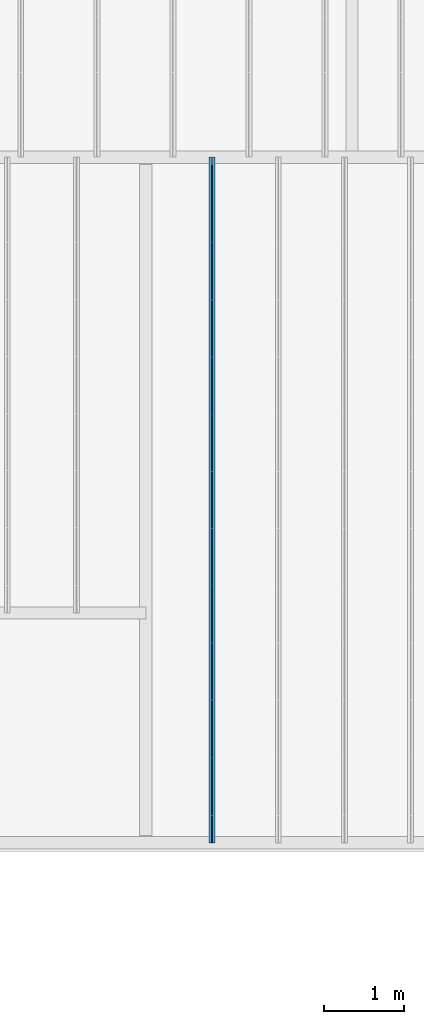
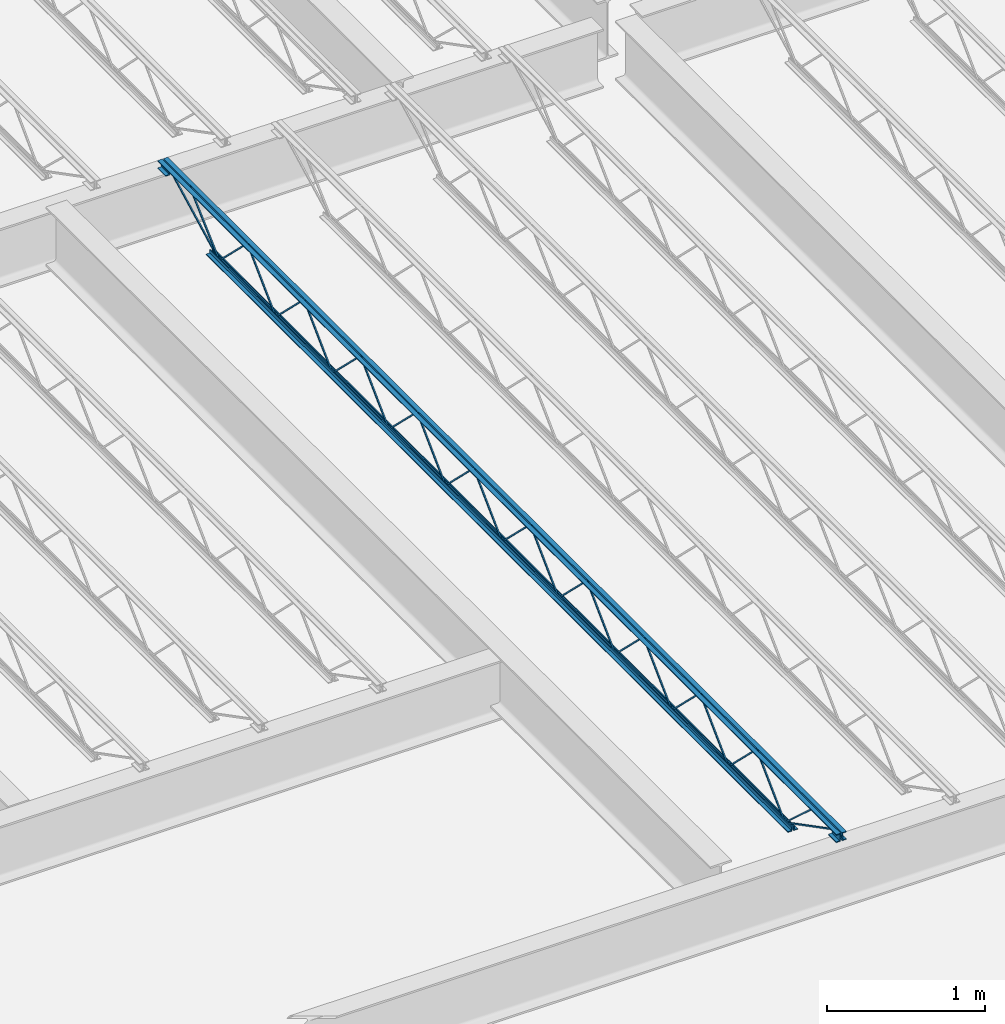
# One storey, part 29 of 75: 1 beam.
"""IFC2X3 building model written with IfcOpenShell, lengths in metres."""

from ifc_helpers import new_model, entity, si_unit, converted_unit, frame, origin, place, context, project, spatial, face_set, surface_model, element, save


model = new_model("IFC2X3")

# Units and contexts
model_context = context("Model", 3, precision=1e-09, world=origin())
plan_context = context("Plan", 3, precision=1e-09, world=origin())
ifc_project = project(units=[si_unit("LENGTHUNIT", "METRE"), si_unit("AREAUNIT", "SQUARE_METRE"), si_unit("VOLUMEUNIT", "CUBIC_METRE"), converted_unit("PLANEANGLEUNIT", "DEGREE", entity("IfcRatioMeasure", 0.01745329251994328), si_unit("PLANEANGLEUNIT", "RADIAN"), dimensions=[0, 0, 0, 0, 0, 0, 0]), si_unit("TIMEUNIT", "SECOND")], contexts=[model_context, plan_context])

# Site, building, storey
site_placement = place(None, origin())
site = spatial("IfcSite", under=ifc_project, at=site_placement, Name="Default", CompositionType="ELEMENT")
building_placement = place(site_placement, origin())
building = spatial("IfcBuilding", under=site, at=building_placement, CompositionType="ELEMENT")
storey_placement = place(building_placement, origin())
storey = spatial("IfcBuildingStorey", under=building, at=storey_placement, Name="First Floor", CompositionType="ELEMENT", Elevation=-3.531500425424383e-13)

# Beam
beam_placement = place(storey_placement, frame((-10.62719704, 10.03999999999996, 4.112000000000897)))
element("IfcBeam", 1, at=beam_placement, inside=storey, Name="M_K-Series Bar Joist-Rod Web:14K1:14K1", ObjectType="M_K-Series Bar Joist-Rod Web:14K1", context=model_context, shape_type="SurfaceModel", body=[
    surface_model("IfcFaceBasedSurfaceModel", [(0.04149999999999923, 6.428799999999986, 0.01110000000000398), (0.03200000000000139, 6.428799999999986, 0.01110000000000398), (0.03200000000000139, 6.428799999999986, 0.001600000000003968), (0.04149999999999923, 6.428799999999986, 0.001600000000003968), (0.03199999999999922, 6.430038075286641, 0.01110000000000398), (0.04149999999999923, 6.430038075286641, 0.01110000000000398), (0.03200000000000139, 6.433911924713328, 0.001600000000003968), (0.03200000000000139, 6.784861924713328, 0.3449000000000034), (0.03200000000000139, 6.78733807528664, 0.3449000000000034), (0.03200000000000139, 7.138288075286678, 0.001600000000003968), (0.03200000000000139, 7.143399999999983, 0.001600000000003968), (0.03200000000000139, 7.143399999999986, 0.01110000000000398), (0.03200000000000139, 7.142161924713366, 0.01110000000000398), (0.03200000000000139, 6.79121192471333, 0.3544000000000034), (0.03200000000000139, 6.780988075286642, 0.3544000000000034), (0.0415000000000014, 6.433911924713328, 0.001600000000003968), (0.04149999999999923, 6.784861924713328, 0.3449000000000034), (0.04149999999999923, 6.787338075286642, 0.3449000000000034), (0.04149999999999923, 7.138288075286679, 0.001600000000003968), (0.04149999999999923, 7.143399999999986, 0.001600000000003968), (0.04149999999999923, 7.143399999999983, 0.01110000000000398), (0.04149999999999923, 7.142161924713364, 0.01110000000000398), (0.04149999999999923, 6.791211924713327, 0.3544000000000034), (0.04149999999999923, 6.780988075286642, 0.3544000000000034), (0.04149999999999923, 5.714199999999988, 0.01110000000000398), (0.03200000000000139, 5.714199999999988, 0.01110000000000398), (0.03200000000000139, 5.714199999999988, 0.001600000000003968), (0.04149999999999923, 5.714199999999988, 0.001600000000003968), (0.03199999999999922, 5.715438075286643, 0.01110000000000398), (0.04149999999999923, 5.715438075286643, 0.01110000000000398), (0.03200000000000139, 5.71931192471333, 0.001600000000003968), (0.03200000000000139, 6.07026192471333, 0.3449000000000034), (0.03200000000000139, 6.072738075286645, 0.3449000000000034), (0.03200000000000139, 6.423688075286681, 0.001600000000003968), (0.03200000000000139, 6.428799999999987, 0.001600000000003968), (0.03200000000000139, 6.428799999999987, 0.01110000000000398), (0.03200000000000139, 6.427561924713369, 0.01110000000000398), (0.03200000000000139, 6.076611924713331, 0.3544000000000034), (0.03200000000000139, 6.066388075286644, 0.3544000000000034), (0.0415000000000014, 5.71931192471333, 0.001600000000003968), (0.04149999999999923, 6.07026192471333, 0.3449000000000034), (0.04149999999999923, 6.072738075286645, 0.3449000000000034), (0.04149999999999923, 6.423688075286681, 0.001600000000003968), (0.04149999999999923, 6.428799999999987, 0.001600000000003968), (0.04149999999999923, 6.428799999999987, 0.01110000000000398), (0.04149999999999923, 6.427561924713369, 0.01110000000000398), (0.04149999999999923, 6.076611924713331, 0.3544000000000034), (0.04149999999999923, 6.066388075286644, 0.3544000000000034), (0.04149999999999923, 4.999599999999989, 0.01110000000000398), (0.03200000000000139, 4.999599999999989, 0.01110000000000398), (0.03200000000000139, 4.999599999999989, 0.001600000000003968), (0.04149999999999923, 4.999599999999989, 0.001600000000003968), (0.03199999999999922, 5.000838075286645, 0.01110000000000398), (0.04149999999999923, 5.000838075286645, 0.01110000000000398), (0.03200000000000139, 5.004711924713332, 0.001600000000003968), (0.03200000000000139, 5.355661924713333, 0.3449000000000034), (0.03200000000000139, 5.358138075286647, 0.3449000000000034), (0.03200000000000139, 5.709088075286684, 0.001600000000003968), (0.03200000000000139, 5.714199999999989, 0.001600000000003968), (0.03200000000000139, 5.714199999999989, 0.01110000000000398), (0.03200000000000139, 5.712961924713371, 0.01110000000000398), (0.03200000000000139, 5.362011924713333, 0.3544000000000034), (0.03200000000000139, 5.351788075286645, 0.3544000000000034), (0.0415000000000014, 5.004711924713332, 0.001600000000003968), (0.04149999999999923, 5.355661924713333, 0.3449000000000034), (0.04149999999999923, 5.358138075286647, 0.3449000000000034), (0.04149999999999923, 5.709088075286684, 0.001600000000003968), (0.04149999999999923, 5.714199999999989, 0.001600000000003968), (0.04149999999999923, 5.714199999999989, 0.01110000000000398), (0.04149999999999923, 5.712961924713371, 0.01110000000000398), (0.04149999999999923, 5.362011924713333, 0.3544000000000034), (0.04149999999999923, 5.351788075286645, 0.3544000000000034), (0.04149999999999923, 4.284999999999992, 0.01110000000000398), (0.03200000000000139, 4.284999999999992, 0.01110000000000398), (0.03200000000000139, 4.284999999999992, 0.001600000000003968), (0.04149999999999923, 4.284999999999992, 0.001600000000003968), (0.03199999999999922, 4.286238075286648, 0.01110000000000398), (0.04149999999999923, 4.286238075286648, 0.01110000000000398), (0.03200000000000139, 4.290111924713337, 0.001600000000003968), (0.03200000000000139, 4.641061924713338, 0.3449000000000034), (0.03200000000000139, 4.643538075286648, 0.3449000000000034), (0.03200000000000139, 4.994488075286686, 0.001600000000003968), (0.03200000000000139, 4.999599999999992, 0.001600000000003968), (0.03200000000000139, 4.999599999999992, 0.01110000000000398), (0.03200000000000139, 4.998361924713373, 0.01110000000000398), (0.03200000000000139, 4.647411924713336, 0.3544000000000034), (0.03200000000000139, 4.637188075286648, 0.3544000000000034), (0.0415000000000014, 4.290111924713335, 0.001600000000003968), (0.04149999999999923, 4.641061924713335, 0.3449000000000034), (0.04149999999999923, 4.643538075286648, 0.3449000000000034), (0.04149999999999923, 4.994488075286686, 0.001600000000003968), (0.04149999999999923, 4.999599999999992, 0.001600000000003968), (0.04149999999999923, 4.999599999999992, 0.01110000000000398), (0.04149999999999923, 4.998361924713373, 0.01110000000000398), (0.04149999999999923, 4.647411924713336, 0.3544000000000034), (0.04149999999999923, 4.637188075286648, 0.3544000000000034), (0.04149999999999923, 3.570399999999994, 0.01110000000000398), (0.03200000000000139, 3.570399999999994, 0.01110000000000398), (0.03200000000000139, 3.570399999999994, 0.001600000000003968), (0.04149999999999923, 3.570399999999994, 0.001600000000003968), (0.03199999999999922, 3.57163807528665, 0.01110000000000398), (0.04149999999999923, 3.57163807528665, 0.01110000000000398), (0.03200000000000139, 3.575511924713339, 0.001600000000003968), (0.03200000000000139, 3.926461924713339, 0.3449000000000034), (0.03200000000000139, 3.928938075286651, 0.3449000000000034), (0.03200000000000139, 4.279888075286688, 0.001600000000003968), (0.03200000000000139, 4.284999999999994, 0.001600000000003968), (0.03200000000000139, 4.284999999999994, 0.01110000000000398), (0.03200000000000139, 4.283761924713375, 0.01110000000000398), (0.03200000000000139, 3.932811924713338, 0.3544000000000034), (0.03200000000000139, 3.92258807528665, 0.3544000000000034), (0.0415000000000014, 3.575511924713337, 0.001600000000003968), (0.04149999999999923, 3.926461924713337, 0.3449000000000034), (0.04149999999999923, 3.928938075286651, 0.3449000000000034), (0.04149999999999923, 4.279888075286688, 0.001600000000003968), (0.04149999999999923, 4.284999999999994, 0.001600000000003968), (0.04149999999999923, 4.284999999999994, 0.01110000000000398), (0.04149999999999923, 4.283761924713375, 0.01110000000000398), (0.04149999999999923, 3.93281192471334, 0.3544000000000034), (0.04149999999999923, 3.922588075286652, 0.3544000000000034), (0.04149999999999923, 2.855799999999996, 0.01110000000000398), (0.03200000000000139, 2.855799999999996, 0.01110000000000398), (0.03200000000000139, 2.855799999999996, 0.001600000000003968), (0.04149999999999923, 2.855799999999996, 0.001600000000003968), (0.03199999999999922, 2.857038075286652, 0.01110000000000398), (0.04149999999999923, 2.857038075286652, 0.01110000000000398), (0.03200000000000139, 2.860911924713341, 0.001600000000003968), (0.03200000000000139, 3.211861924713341, 0.3449000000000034), (0.03200000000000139, 3.214338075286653, 0.3449000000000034), (0.03200000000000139, 3.56528807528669, 0.001600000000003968), (0.03200000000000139, 3.570399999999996, 0.001600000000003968), (0.03200000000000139, 3.570399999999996, 0.01110000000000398), (0.03200000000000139, 3.569161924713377, 0.01110000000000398), (0.03200000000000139, 3.21821192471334, 0.3544000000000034), (0.03200000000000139, 3.207988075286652, 0.3544000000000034), (0.0415000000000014, 2.860911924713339, 0.001600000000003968), (0.04149999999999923, 3.21186192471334, 0.3449000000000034), (0.04149999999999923, 3.214338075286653, 0.3449000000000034), (0.04149999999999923, 3.56528807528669, 0.001600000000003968), (0.04149999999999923, 3.570399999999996, 0.001600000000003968), (0.04149999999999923, 3.570399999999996, 0.01110000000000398), (0.04149999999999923, 3.569161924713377, 0.01110000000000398), (0.04149999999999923, 3.218211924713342, 0.3544000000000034), (0.04149999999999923, 3.207988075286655, 0.3544000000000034), (0.04149999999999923, 2.1412, 0.01110000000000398), (0.03200000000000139, 2.1412, 0.01110000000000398), (0.03200000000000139, 2.1412, 0.001600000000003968), (0.04149999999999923, 2.1412, 0.001600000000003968), (0.03199999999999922, 2.142438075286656, 0.01110000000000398), (0.04149999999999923, 2.142438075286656, 0.01110000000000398), (0.03200000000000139, 2.146311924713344, 0.001600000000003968), (0.03200000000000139, 2.497261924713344, 0.3449000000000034), (0.03200000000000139, 2.499738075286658, 0.3449000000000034), (0.03200000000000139, 2.850688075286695, 0.001600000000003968), (0.03200000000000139, 2.8558, 0.001600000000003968), (0.03200000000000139, 2.8558, 0.01110000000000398), (0.03200000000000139, 2.854561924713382, 0.01110000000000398), (0.03200000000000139, 2.503611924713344, 0.3544000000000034), (0.03200000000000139, 2.493388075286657, 0.3544000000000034), (0.0415000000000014, 2.146311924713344, 0.001600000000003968), (0.04149999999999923, 2.497261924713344, 0.3449000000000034), (0.04149999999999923, 2.499738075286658, 0.3449000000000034), (0.04149999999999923, 2.850688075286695, 0.001600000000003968), (0.04149999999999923, 2.8558, 0.001600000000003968), (0.04149999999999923, 2.8558, 0.01110000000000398), (0.04149999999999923, 2.854561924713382, 0.01110000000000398), (0.04149999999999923, 2.503611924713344, 0.3544000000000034), (0.04149999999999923, 2.493388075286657, 0.3544000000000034), (0.04149999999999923, 1.426600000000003, 0.01110000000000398), (0.03200000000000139, 1.426600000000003, 0.01110000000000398), (0.03200000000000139, 1.426600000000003, 0.001600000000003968), (0.04149999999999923, 1.426600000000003, 0.001600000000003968), (0.03199999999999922, 1.427838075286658, 0.01110000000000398), (0.04149999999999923, 1.427838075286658, 0.01110000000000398), (0.03200000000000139, 1.431711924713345, 0.001600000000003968), (0.03200000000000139, 1.782661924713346, 0.3449000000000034), (0.03200000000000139, 1.78513807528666, 0.3449000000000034), (0.03200000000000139, 2.136088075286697, 0.001600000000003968), (0.03200000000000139, 2.141200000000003, 0.001600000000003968), (0.03200000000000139, 2.141200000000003, 0.01110000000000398), (0.03200000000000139, 2.139961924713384, 0.01110000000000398), (0.03200000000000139, 1.789011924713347, 0.3544000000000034), (0.03200000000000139, 1.778788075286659, 0.3544000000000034), (0.0415000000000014, 1.431711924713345, 0.001600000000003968), (0.04149999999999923, 1.782661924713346, 0.3449000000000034), (0.04149999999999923, 1.78513807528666, 0.3449000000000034), (0.04149999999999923, 2.136088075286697, 0.001600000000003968), (0.04149999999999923, 2.141200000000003, 0.001600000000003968), (0.04149999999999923, 2.141200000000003, 0.01110000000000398), (0.04149999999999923, 2.139961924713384, 0.01110000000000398), (0.04149999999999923, 1.789011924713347, 0.3544000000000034), (0.04149999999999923, 1.778788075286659, 0.3544000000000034), (0.0415000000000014, 7.143399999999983, 0.01109999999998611), (0.03200000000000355, 7.143399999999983, 0.01109999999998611), (0.03200000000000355, 7.143399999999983, 0.0015999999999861), (0.0415000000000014, 7.143399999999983, 0.0015999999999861), (0.03200000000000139, 7.144638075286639, 0.01109999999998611), (0.0415000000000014, 7.144638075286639, 0.01109999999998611), (0.03200000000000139, 7.148511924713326, 0.0015999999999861), (0.03200000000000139, 7.499461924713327, 0.3448999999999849), (0.03200000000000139, 7.501938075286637, 0.3448999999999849), (0.03200000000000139, 7.852888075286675, 0.0015999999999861), (0.03200000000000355, 7.857999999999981, 0.0015999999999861), (0.03200000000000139, 7.857999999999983, 0.01109999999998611), (0.03200000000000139, 7.856761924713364, 0.01109999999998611), (0.03200000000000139, 7.505811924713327, 0.354399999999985), (0.03200000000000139, 7.495588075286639, 0.354399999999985), (0.0415000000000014, 7.148511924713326, 0.0015999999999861), (0.0415000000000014, 7.499461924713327, 0.3448999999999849), (0.0415000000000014, 7.50193807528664, 0.3448999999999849), (0.0415000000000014, 7.852888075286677, 0.0015999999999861), (0.0415000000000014, 7.857999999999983, 0.0015999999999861), (0.0415000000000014, 7.857999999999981, 0.01109999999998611), (0.0415000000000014, 7.856761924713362, 0.01109999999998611), (0.0415000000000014, 7.505811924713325, 0.354399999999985), (0.0415000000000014, 7.495588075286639, 0.354399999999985), (0.04149999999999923, 0.712000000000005, 0.01110000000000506), (0.03200000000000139, 0.712000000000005, 0.01110000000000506), (0.03200000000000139, 0.712000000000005, 0.001600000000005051), (0.04149999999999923, 0.712000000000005, 0.001600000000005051), (0.03199999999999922, 0.7132380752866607, 0.01110000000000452), (0.04149999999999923, 0.7132380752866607, 0.01110000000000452), (0.03200000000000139, 0.7171119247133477, 0.001600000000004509), (0.03200000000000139, 1.068061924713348, 0.3449000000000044), (0.03200000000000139, 1.070538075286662, 0.3449000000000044), (0.03200000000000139, 1.421488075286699, 0.001600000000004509), (0.03200000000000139, 1.426600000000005, 0.001600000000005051), (0.03200000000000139, 1.426600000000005, 0.01110000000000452), (0.03200000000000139, 1.425361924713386, 0.01110000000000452), (0.03200000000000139, 1.074411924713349, 0.3544000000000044), (0.03200000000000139, 1.064188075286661, 0.3544000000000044), (0.0415000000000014, 0.7171119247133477, 0.001600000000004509), (0.04149999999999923, 1.068061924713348, 0.3449000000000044), (0.04149999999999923, 1.070538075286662, 0.3449000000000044), (0.04149999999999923, 1.421488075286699, 0.001600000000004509), (0.04149999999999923, 1.426600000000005, 0.001600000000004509), (0.04149999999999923, 1.426600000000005, 0.01110000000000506), (0.04149999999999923, 1.425361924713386, 0.01110000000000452), (0.04149999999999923, 1.074411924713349, 0.3544000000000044), (0.04149999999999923, 1.064188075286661, 0.3544000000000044), (0.03199999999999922, 8.57, 0.3559999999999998), (0.0, 8.57, 0.3559999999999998), (0.0, 8.57, 0.349499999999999), (0.02549999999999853, 8.57, 0.349499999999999), (0.02549999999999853, 8.57, 0.3239999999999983), (0.03199999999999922, 8.57, 0.3239999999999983), (0.04149999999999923, 8.57, 0.3559999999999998), (0.04149999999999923, 8.57, 0.3239999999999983), (0.04799999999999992, 8.57, 0.3239999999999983), (0.04799999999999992, 8.57, 0.349499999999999), (0.07349999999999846, 8.57, 0.349499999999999), (0.07349999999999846, 8.57, 0.3559999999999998), (0.03199999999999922, 0.0, 0.3559999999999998), (0.0, 0.0, 0.3559999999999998), (0.0, 0.0, 0.349499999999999), (0.02549999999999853, 0.0, 0.349499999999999), (0.02549999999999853, 0.0, 0.3239999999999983), (0.03199999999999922, 0.0, 0.3239999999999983), (0.04149999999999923, 0.0, 0.3559999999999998), (0.04149999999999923, 0.0, 0.3239999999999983), (0.04799999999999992, 0.0, 0.3239999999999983), (0.04799999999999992, 0.0, 0.349499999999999), (0.07349999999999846, 0.0, 0.349499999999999), (0.07349999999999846, 0.0, 0.3559999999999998), (0.04149999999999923, 0.09999999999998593, 0.2924999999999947), (0.07349999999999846, 0.09999999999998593, 0.2924999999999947), (0.07349999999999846, 0.09999999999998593, 0.2989999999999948), (0.04799999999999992, 0.09999999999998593, 0.2989999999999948), (0.04799999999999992, 0.09999999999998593, 0.3239999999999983), (0.04149999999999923, 0.09999999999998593, 0.3239999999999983), (0.0, 0.09999999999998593, 0.2924999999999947), (0.03199999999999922, 0.09999999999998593, 0.2924999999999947), (0.03199999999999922, 0.09999999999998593, 0.3239999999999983), (0.02549999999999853, 0.09999999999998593, 0.3239999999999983), (0.02549999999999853, 0.09999999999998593, 0.2989999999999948), (0.0, 0.09999999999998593, 0.2989999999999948), (0.04149999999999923, 0.0, 0.2924999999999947), (0.07349999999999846, 0.0, 0.2924999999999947), (0.07349999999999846, 0.0, 0.2989999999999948), (0.04799999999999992, 0.0, 0.2989999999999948), (0.0, 0.0, 0.2924999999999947), (0.03199999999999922, 0.0, 0.2924999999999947), (0.02549999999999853, 0.0, 0.2989999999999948), (0.0, 0.0, 0.2989999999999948), (0.03199999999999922, 8.57, 0.2924999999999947), (0.0255000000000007, 8.57, 0.3239999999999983), (0.0255000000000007, 8.57, 0.2989999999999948), (0.0, 8.57, 0.2989999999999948), (0.0, 8.57, 0.2924999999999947), (0.04149999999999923, 8.57, 0.2924999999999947), (0.07350000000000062, 8.57, 0.2924999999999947), (0.07350000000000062, 8.57, 0.2989999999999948), (0.04799999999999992, 8.57, 0.2989999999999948), (0.03199999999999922, 8.47, 0.2924999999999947), (0.03199999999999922, 8.47, 0.3239999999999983), (0.0255000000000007, 8.47, 0.3239999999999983), (0.0255000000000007, 8.47, 0.2989999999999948), (0.0, 8.47, 0.2989999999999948), (0.0, 8.47, 0.2924999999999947), (0.04149999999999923, 8.47, 0.2924999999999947), (0.07350000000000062, 8.47, 0.2924999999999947), (0.07350000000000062, 8.47, 0.2989999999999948), (0.04799999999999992, 8.47, 0.2989999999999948), (0.04799999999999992, 8.47, 0.3239999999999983), (0.04149999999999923, 8.47, 0.3239999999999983), (0.03199999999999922, 7.958000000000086, 0.0), (0.03199999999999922, 7.958000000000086, 0.03199999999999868), (0.02549999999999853, 7.958000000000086, 0.03199999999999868), (0.02549999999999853, 7.958000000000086, 0.006499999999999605), (0.0, 7.958000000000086, 0.006499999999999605), (0.0, 7.958000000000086, 0.0), (0.04149999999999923, 7.958000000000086, 0.0), (0.07349999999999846, 7.958000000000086, 0.0), (0.07349999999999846, 7.958000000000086, 0.006499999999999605), (0.04799999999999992, 7.958000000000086, 0.006499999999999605), (0.04799999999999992, 7.958000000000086, 0.03199999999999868), (0.04149999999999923, 7.958000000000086, 0.03199999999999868), (0.03199999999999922, 0.6120000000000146, 0.0), (0.03199999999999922, 0.6120000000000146, 0.03199999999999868), (0.02549999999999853, 0.6120000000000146, 0.03199999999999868), (0.02549999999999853, 0.6120000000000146, 0.006499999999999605), (0.0, 0.6120000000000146, 0.006499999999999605), (0.0, 0.6120000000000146, 0.0), (0.04149999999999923, 0.6120000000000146, 0.0), (0.07349999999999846, 0.6120000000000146, 0.0), (0.07349999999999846, 0.6120000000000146, 0.006499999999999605), (0.04799999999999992, 0.6120000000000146, 0.006499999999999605), (0.04799999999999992, 0.6120000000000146, 0.03199999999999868), (0.04149999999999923, 0.6120000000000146, 0.03199999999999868), (0.0415000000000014, 0.7141882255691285, 0.01056594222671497), (0.03200000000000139, 0.7141882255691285, 0.01056594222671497), (0.03200000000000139, 0.7098117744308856, 0.002134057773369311), (0.0415000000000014, 0.7098117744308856, 0.002134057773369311), (0.0415000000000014, 0.1011592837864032, 0.3287499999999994), (0.0415000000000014, 0.0, 0.3287499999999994), (0.0415000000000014, 0.0, 0.3192499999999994), (0.0415000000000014, 0.09884071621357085, 0.3192499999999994), (0.03200000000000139, 0.09884071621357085, 0.3192499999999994), (0.03200000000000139, 0.1011592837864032, 0.3287499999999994), (0.03200000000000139, 0.0, 0.3287499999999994), (0.03200000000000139, 0.0, 0.3192499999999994), (0.04149999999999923, 0.3347428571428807, 0.341700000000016), (0.03200000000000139, 0.3347428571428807, 0.341700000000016), (0.03200000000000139, 0.3347428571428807, 0.332200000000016), (0.04149999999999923, 0.3347428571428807, 0.332200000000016), (0.03199999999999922, 0.349275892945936, 0.341700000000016), (0.04149999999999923, 0.349275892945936, 0.341700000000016), (0.03200000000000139, 0.3456098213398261, 0.332200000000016), (0.03200000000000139, 0.7088091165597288, 0.002831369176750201), (0.03200000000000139, 0.7151908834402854, 0.009868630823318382), (0.0415000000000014, 0.3456098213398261, 0.332200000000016), (0.04149999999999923, 0.7088091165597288, 0.002831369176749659), (0.04149999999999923, 0.7151908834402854, 0.009868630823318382), (0.04149999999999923, 8.472188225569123, 0.3197840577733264), (0.04149999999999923, 8.467811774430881, 0.3282159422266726), (0.03200000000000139, 8.467811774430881, 0.3282159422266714), (0.03200000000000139, 8.472188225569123, 0.3197840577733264), (0.04149999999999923, 7.860188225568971, 0.002134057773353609), (0.04149999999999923, 7.855811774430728, 0.01056594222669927), (0.03200000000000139, 7.855811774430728, 0.01056594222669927), (0.03200000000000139, 7.860188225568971, 0.002134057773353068), (0.04149999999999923, 8.233036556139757, 0.3461600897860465), (0.04149999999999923, 8.22659201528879, 0.3531399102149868), (0.03200000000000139, 8.22659201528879, 0.3531399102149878), (0.03200000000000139, 8.233036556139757, 0.3461600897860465), (0.04149999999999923, 7.861222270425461, 0.002860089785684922), (0.04149999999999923, 7.854777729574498, 0.009839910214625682), (0.03200000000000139, 7.854777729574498, 0.009839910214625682), (0.03200000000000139, 7.861222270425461, 0.002860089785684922)], [face_set([[[0, 1, 2, 3]], [[1, 4, 5, 0]], [[2, 6, 7, 8, 9, 10, 11, 12, 13, 14, 4, 1]], [[3, 2, 6, 15]], [[0, 3, 15, 16, 17, 18, 19, 20, 21, 22, 23, 5]], [[4, 5, 23, 14]], [[15, 16, 7, 6]], [[14, 13, 22, 23]], [[16, 7, 8, 17]], [[13, 12, 21, 22]], [[17, 8, 9, 18]], [[20, 11, 10, 19]], [[12, 11, 20, 21]], [[18, 9, 10, 19]]]), face_set([[[24, 25, 26, 27]], [[25, 28, 29, 24]], [[26, 30, 31, 32, 33, 34, 35, 36, 37, 38, 28, 25]], [[27, 26, 30, 39]], [[24, 27, 39, 40, 41, 42, 43, 44, 45, 46, 47, 29]], [[28, 29, 47, 38]], [[39, 40, 31, 30]], [[38, 37, 46, 47]], [[40, 31, 32, 41]], [[37, 36, 45, 46]], [[41, 32, 33, 42]], [[44, 35, 34, 43]], [[36, 35, 44, 45]], [[42, 33, 34, 43]]]), face_set([[[48, 49, 50, 51]], [[49, 52, 53, 48]], [[50, 54, 55, 56, 57, 58, 59, 60, 61, 62, 52, 49]], [[51, 50, 54, 63]], [[48, 51, 63, 64, 65, 66, 67, 68, 69, 70, 71, 53]], [[52, 53, 71, 62]], [[63, 64, 55, 54]], [[62, 61, 70, 71]], [[64, 55, 56, 65]], [[61, 60, 69, 70]], [[65, 56, 57, 66]], [[68, 59, 58, 67]], [[60, 59, 68, 69]], [[66, 57, 58, 67]]]), face_set([[[72, 73, 74, 75]], [[73, 76, 77, 72]], [[74, 78, 79, 80, 81, 82, 83, 84, 85, 86, 76, 73]], [[75, 74, 78, 87]], [[72, 75, 87, 88, 89, 90, 91, 92, 93, 94, 95, 77]], [[76, 77, 95, 86]], [[87, 88, 79, 78]], [[86, 85, 94, 95]], [[88, 79, 80, 89]], [[85, 84, 93, 94]], [[89, 80, 81, 90]], [[92, 83, 82, 91]], [[84, 83, 92, 93]], [[90, 81, 82, 91]]]), face_set([[[96, 97, 98, 99]], [[97, 100, 101, 96]], [[98, 102, 103, 104, 105, 106, 107, 108, 109, 110, 100, 97]], [[99, 98, 102, 111]], [[96, 99, 111, 112, 113, 114, 115, 116, 117, 118, 119, 101]], [[100, 101, 119, 110]], [[111, 112, 103, 102]], [[110, 109, 118, 119]], [[112, 103, 104, 113]], [[109, 108, 117, 118]], [[113, 104, 105, 114]], [[116, 107, 106, 115]], [[108, 107, 116, 117]], [[114, 105, 106, 115]]]), face_set([[[120, 121, 122, 123]], [[121, 124, 125, 120]], [[122, 126, 127, 128, 129, 130, 131, 132, 133, 134, 124, 121]], [[123, 122, 126, 135]], [[120, 123, 135, 136, 137, 138, 139, 140, 141, 142, 143, 125]], [[124, 125, 143, 134]], [[135, 136, 127, 126]], [[134, 133, 142, 143]], [[136, 127, 128, 137]], [[133, 132, 141, 142]], [[137, 128, 129, 138]], [[140, 131, 130, 139]], [[132, 131, 140, 141]], [[138, 129, 130, 139]]]), face_set([[[144, 145, 146, 147]], [[145, 148, 149, 144]], [[146, 150, 151, 152, 153, 154, 155, 156, 157, 158, 148, 145]], [[147, 146, 150, 159]], [[144, 147, 159, 160, 161, 162, 163, 164, 165, 166, 167, 149]], [[148, 149, 167, 158]], [[159, 160, 151, 150]], [[158, 157, 166, 167]], [[160, 151, 152, 161]], [[157, 156, 165, 166]], [[161, 152, 153, 162]], [[164, 155, 154, 163]], [[156, 155, 164, 165]], [[162, 153, 154, 163]]]), face_set([[[168, 169, 170, 171]], [[169, 172, 173, 168]], [[170, 174, 175, 176, 177, 178, 179, 180, 181, 182, 172, 169]], [[171, 170, 174, 183]], [[168, 171, 183, 184, 185, 186, 187, 188, 189, 190, 191, 173]], [[172, 173, 191, 182]], [[183, 184, 175, 174]], [[182, 181, 190, 191]], [[184, 175, 176, 185]], [[181, 180, 189, 190]], [[185, 176, 177, 186]], [[188, 179, 178, 187]], [[180, 179, 188, 189]], [[186, 177, 178, 187]]]), face_set([[[192, 193, 194, 195]], [[193, 196, 197, 192]], [[194, 198, 199, 200, 201, 202, 203, 204, 205, 206, 196, 193]], [[195, 194, 198, 207]], [[192, 195, 207, 208, 209, 210, 211, 212, 213, 214, 215, 197]], [[196, 197, 215, 206]], [[207, 208, 199, 198]], [[206, 205, 214, 215]], [[208, 199, 200, 209]], [[205, 204, 213, 214]], [[209, 200, 201, 210]], [[212, 203, 202, 211]], [[204, 203, 212, 213]], [[210, 201, 202, 211]]]), face_set([[[216, 217, 218, 219]], [[217, 220, 221, 216]], [[218, 222, 223, 224, 225, 226, 227, 228, 229, 230, 220, 217]], [[219, 218, 222, 231]], [[216, 219, 231, 232, 233, 234, 235, 236, 237, 238, 239, 221]], [[220, 221, 239, 230]], [[231, 232, 223, 222]], [[230, 229, 238, 239]], [[232, 223, 224, 233]], [[229, 228, 237, 238]], [[233, 224, 225, 234]], [[236, 227, 226, 235]], [[228, 227, 236, 237]], [[234, 225, 226, 235]]]), face_set([[[240, 241, 242, 243, 244, 245]], [[246, 247, 248, 249, 250, 251]], [[252, 253, 254, 255, 256, 257]], [[258, 259, 260, 261, 262, 263]], [[245, 240, 252, 257]], [[244, 245, 257, 256]], [[243, 255, 256, 244]], [[242, 243, 255, 254]], [[241, 253, 254, 242]], [[240, 252, 253, 241]], [[251, 263, 258, 246]], [[250, 251, 263, 262]], [[249, 250, 262, 261]], [[248, 249, 261, 260]], [[247, 248, 260, 259]], [[246, 258, 259, 247]]]), face_set([[[264, 265, 266, 267, 268, 269]], [[270, 271, 272, 273, 274, 275]], [[276, 277, 278, 279, 260, 259]], [[280, 281, 257, 256, 282, 283]], [[269, 259, 276, 264]], [[268, 260, 259, 269]], [[267, 268, 260, 279]], [[266, 278, 279, 267]], [[265, 266, 278, 277]], [[264, 265, 277, 276]], [[275, 283, 280, 270]], [[274, 282, 283, 275]], [[273, 256, 282, 274]], [[272, 257, 256, 273]], [[271, 272, 257, 281]], [[270, 271, 281, 280]]]), face_set([[[284, 245, 285, 286, 287, 288]], [[289, 290, 291, 292, 248, 247]], [[293, 294, 295, 296, 297, 298]], [[299, 300, 301, 302, 303, 304]], [[288, 284, 293, 298]], [[287, 297, 298, 288]], [[286, 296, 297, 287]], [[285, 295, 296, 286]], [[245, 294, 295, 285]], [[284, 245, 294, 293]], [[247, 304, 299, 289]], [[248, 303, 304, 247]], [[292, 248, 303, 302]], [[291, 301, 302, 292]], [[290, 291, 301, 300]], [[289, 290, 300, 299]]]), face_set([[[305, 306, 307, 308, 309, 310]], [[311, 312, 313, 314, 315, 316]], [[317, 318, 319, 320, 321, 322]], [[323, 324, 325, 326, 327, 328]], [[310, 305, 317, 322]], [[309, 321, 322, 310]], [[308, 320, 321, 309]], [[307, 319, 320, 308]], [[306, 318, 319, 307]], [[305, 306, 318, 317]], [[316, 328, 323, 311]], [[315, 327, 328, 316]], [[314, 315, 327, 326]], [[313, 325, 326, 314]], [[312, 313, 325, 324]], [[311, 312, 324, 323]]]), face_set([[[329, 330, 331, 332]], [[332, 329, 333, 334, 335, 336]], [[331, 332, 336, 337]], [[330, 338, 339, 340, 337, 331]], [[329, 333, 338, 330]], [[334, 339, 340, 335]], [[337, 336, 335, 340]], [[333, 334, 339, 338]]]), face_set([[[341, 342, 343, 344]], [[342, 345, 346, 341]], [[343, 347, 348, 349, 345, 342]], [[344, 343, 347, 350]], [[341, 344, 350, 351, 352, 346]], [[352, 349, 348, 351]], [[345, 349, 352, 346]], [[350, 347, 348, 351]]]), face_set([[[353, 354, 355, 356]], [[357, 358, 359, 360]], [[356, 360, 357, 353]], [[355, 359, 360, 356]], [[354, 355, 359, 358]], [[353, 354, 358, 357]]]), face_set([[[361, 362, 363, 364]], [[365, 366, 367, 368]], [[364, 368, 365, 361]], [[363, 367, 368, 364]], [[362, 363, 367, 366]], [[361, 362, 366, 365]]])]),
])

save(model, "model.ifc")
